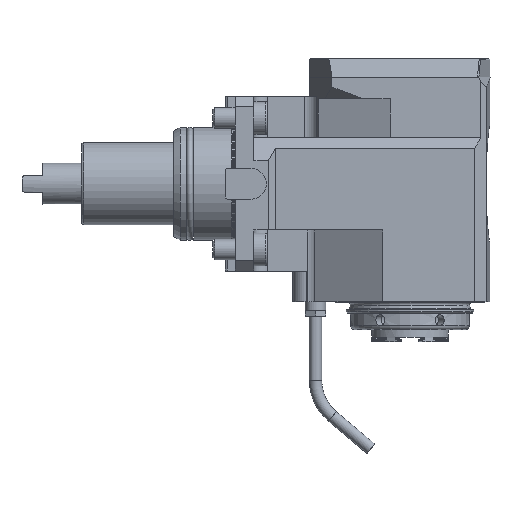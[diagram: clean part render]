
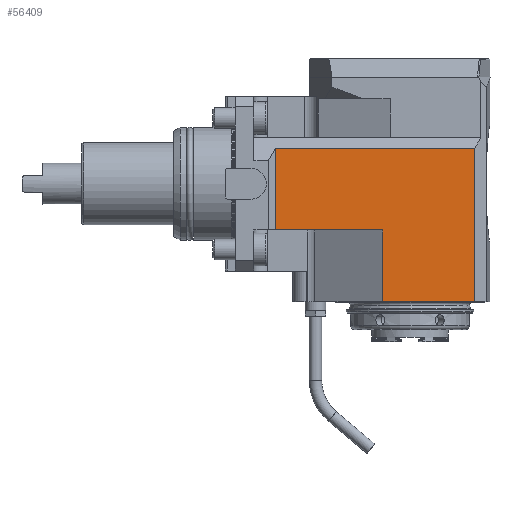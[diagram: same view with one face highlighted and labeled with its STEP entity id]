
A CAD part, front view. The second image highlights one B-rep face of the part: STEP entity #56409.
In plain terms, the highlighted planar face has unit normal (0, -1, 0) as drawn and (0, 0, 1) by its records, which use the part's own axes.
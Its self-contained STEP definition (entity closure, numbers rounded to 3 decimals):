
#22634=VECTOR('',#37092,1.);
#22712=VECTOR('',#37274,1.);
#22727=VECTOR('',#37317,1.);
#22730=VECTOR('',#37324,1.);
#22731=VECTOR('',#37325,1.);
#22732=VECTOR('',#37326,1.);
#23846=LINE('',#41760,#22634);
#23924=LINE('',#41954,#22712);
#23939=LINE('',#41995,#22727);
#23942=LINE('',#42001,#22730);
#23943=LINE('',#42002,#22731);
#23944=LINE('',#42003,#22732);
#24977=PLANE('',#54546);
#26137=ORIENTED_EDGE('',*,*,#32247,.F.);
#26138=ORIENTED_EDGE('',*,*,#32251,.F.);
#26139=ORIENTED_EDGE('',*,*,#32128,.T.);
#26140=ORIENTED_EDGE('',*,*,#32252,.F.);
#26141=ORIENTED_EDGE('',*,*,#32227,.F.);
#26142=ORIENTED_EDGE('',*,*,#32253,.F.);
#30554=VERTEX_POINT('',#41757);
#30555=VERTEX_POINT('',#41759);
#30618=VERTEX_POINT('',#41951);
#30619=VERTEX_POINT('',#41953);
#30630=VERTEX_POINT('',#41993);
#30631=VERTEX_POINT('',#41994);
#32128=EDGE_CURVE('',#30555,#30554,#23846,.T.);
#32227=EDGE_CURVE('',#30618,#30619,#23924,.T.);
#32247=EDGE_CURVE('',#30630,#30631,#23939,.T.);
#32251=EDGE_CURVE('',#30555,#30630,#23942,.T.);
#32252=EDGE_CURVE('',#30619,#30554,#23943,.T.);
#32253=EDGE_CURVE('',#30631,#30618,#23944,.T.);
#34197=EDGE_LOOP('',(#26137,#26138,#26139,#26140,#26141,#26142));
#35472=FACE_BOUND('',#34197,.T.);
#37092=DIRECTION('',(0.,-44.909,0.));
#37274=DIRECTION('',(0.,-97.056,0.));
#37317=DIRECTION('',(0.,52.147,0.));
#37322=DIRECTION('',(0.,0.,1.));
#37323=DIRECTION('',(0.,-1.,0.));
#37324=DIRECTION('',(35.,0.,0.));
#37325=DIRECTION('',(-74.804,0.,0.));
#37326=DIRECTION('',(39.804,0.,0.));
#41757=CARTESIAN_POINT('',(-57.5,-116.556,39.));
#41759=CARTESIAN_POINT('',(-57.5,-71.647,39.));
#41760=CARTESIAN_POINT('',(-57.5,-71.647,39.));
#41951=CARTESIAN_POINT('',(17.304,-19.5,39.));
#41953=CARTESIAN_POINT('',(17.304,-116.556,39.));
#41954=CARTESIAN_POINT('',(17.304,-19.5,39.));
#41993=CARTESIAN_POINT('',(-22.5,-71.647,39.));
#41994=CARTESIAN_POINT('',(-22.5,-19.5,39.));
#41995=CARTESIAN_POINT('',(-22.5,-71.647,39.));
#42000=CARTESIAN_POINT('',(-22.5,-71.647,39.));
#42001=CARTESIAN_POINT('',(-57.5,-71.647,39.));
#42002=CARTESIAN_POINT('',(17.304,-116.556,39.));
#42003=CARTESIAN_POINT('',(-22.5,-19.5,39.));
#54546=AXIS2_PLACEMENT_3D('',#42000,#37322,#37323);
#56409=ADVANCED_FACE('',(#35472),#24977,.T.);
